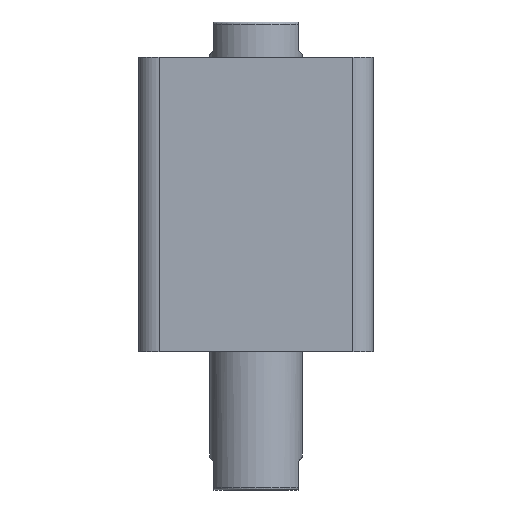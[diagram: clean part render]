
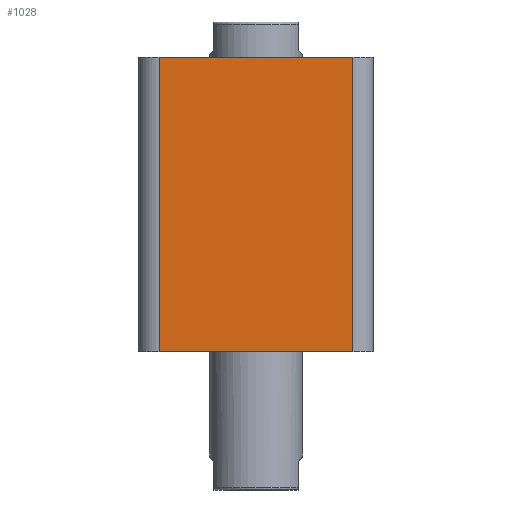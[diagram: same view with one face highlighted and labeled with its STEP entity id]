
A CAD part, front view. The second image highlights one B-rep face of the part: STEP entity #1028.
In plain terms, the highlighted planar face has unit normal (0, -1, 0).
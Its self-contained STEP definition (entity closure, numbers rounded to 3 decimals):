
#168 = CARTESIAN_POINT ( 'NONE',  ( -47., -57., 0. ) ) ;
#169 = CARTESIAN_POINT ( 'NONE',  ( 47., -57., 0. ) ) ;
#381 = VERTEX_POINT ( 'NONE', #169 ) ;
#382 = VERTEX_POINT ( 'NONE', #168 ) ;
#392 = VERTEX_POINT ( 'NONE', #1557 ) ;
#410 = VERTEX_POINT ( 'NONE', #1521 ) ;
#498 = EDGE_LOOP ( 'NONE', ( #3043, #3044, #3045, #3046 ) ) ;
#699 = FACE_OUTER_BOUND ( 'NONE', #498, .T. ) ;
#950 = DIRECTION ( 'NONE',  ( 0., 0., 1. ) ) ;
#951 = DIRECTION ( 'NONE',  ( 0., 1., 0. ) ) ;
#1028 = ADVANCED_FACE ( 'NONE', ( #699 ), #2931, .F. ) ;
#1220 = EDGE_CURVE ( 'NONE', #410, #382, #2201, .T. ) ;
#1288 = EDGE_CURVE ( 'NONE', #381, #392, #2302, .T. ) ;
#1289 = EDGE_CURVE ( 'NONE', #410, #392, #2303, .T. ) ;
#1290 = EDGE_CURVE ( 'NONE', #382, #381, #2305, .T. ) ;
#1355 = AXIS2_PLACEMENT_3D ( 'NONE', #2932, #951, #950 ) ;
#1521 = CARTESIAN_POINT ( 'NONE',  ( -47., -57., 143. ) ) ;
#1557 = CARTESIAN_POINT ( 'NONE',  ( 47., -57., 143. ) ) ;
#2201 = LINE ( 'NONE', #2624, #2204 ) ;
#2204 = VECTOR ( 'NONE', #2614, 1000. ) ;
#2302 = LINE ( 'NONE', #2794, #2304 ) ;
#2303 = LINE ( 'NONE', #2804, #2306 ) ;
#2304 = VECTOR ( 'NONE', #2795, 1000. ) ;
#2305 = LINE ( 'NONE', #2806, #2307 ) ;
#2306 = VECTOR ( 'NONE', #2805, 1000. ) ;
#2307 = VECTOR ( 'NONE', #2808, 1000. ) ;
#2614 = DIRECTION ( 'NONE',  ( 0., 0., -1. ) ) ;
#2624 = CARTESIAN_POINT ( 'NONE',  ( -47., -57., 143. ) ) ;
#2794 = CARTESIAN_POINT ( 'NONE',  ( 47., -57., 143. ) ) ;
#2795 = DIRECTION ( 'NONE',  ( 0., 0., 1. ) ) ;
#2804 = CARTESIAN_POINT ( 'NONE',  ( -57., -57., 143. ) ) ;
#2805 = DIRECTION ( 'NONE',  ( 1., 0., 0. ) ) ;
#2806 = CARTESIAN_POINT ( 'NONE',  ( -57., -57., 0. ) ) ;
#2808 = DIRECTION ( 'NONE',  ( 1., 0., 0. ) ) ;
#2931 = PLANE ( 'NONE',  #1355 ) ;
#2932 = CARTESIAN_POINT ( 'NONE',  ( -57., -57., 143. ) ) ;
#3043 = ORIENTED_EDGE ( 'NONE', *, *, #1290, .T. ) ;
#3044 = ORIENTED_EDGE ( 'NONE', *, *, #1288, .T. ) ;
#3045 = ORIENTED_EDGE ( 'NONE', *, *, #1289, .F. ) ;
#3046 = ORIENTED_EDGE ( 'NONE', *, *, #1220, .T. ) ;
